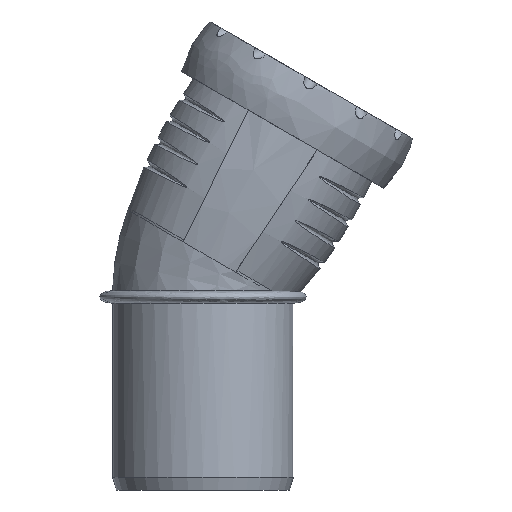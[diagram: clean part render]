
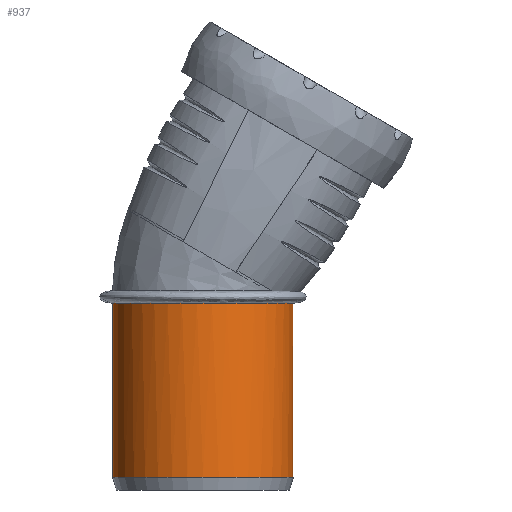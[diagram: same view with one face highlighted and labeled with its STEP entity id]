
A CAD part, front view. The second image highlights one B-rep face of the part: STEP entity #937.
In plain terms, the highlighted cylindrical face has radius 25.075 mm (diameter 50.15 mm), a full revolution.
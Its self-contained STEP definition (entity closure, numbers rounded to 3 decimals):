
#48=CYLINDRICAL_SURFACE('',#1024,25.075);
#96=FACE_BOUND('',#222,.T.);
#148=FACE_OUTER_BOUND('',#221,.T.);
#221=EDGE_LOOP('',(#800,#801,#802,#803));
#222=EDGE_LOOP('',(#804));
#262=CIRCLE('',#1013,25.075);
#267=CIRCLE('',#1025,25.075);
#268=CIRCLE('',#1026,25.075);
#269=CIRCLE('',#1027,25.075);
#270=CIRCLE('',#1028,25.075);
#422=VERTEX_POINT('',#3967);
#424=VERTEX_POINT('',#4002);
#431=VERTEX_POINT('',#4123);
#432=VERTEX_POINT('',#4125);
#433=VERTEX_POINT('',#4128);
#546=EDGE_CURVE('',#422,#424,#262,.T.);
#557=EDGE_CURVE('',#431,#422,#267,.T.);
#558=EDGE_CURVE('',#424,#432,#268,.T.);
#559=EDGE_CURVE('',#432,#431,#269,.T.);
#560=EDGE_CURVE('',#433,#433,#270,.T.);
#800=ORIENTED_EDGE('',*,*,#557,.T.);
#801=ORIENTED_EDGE('',*,*,#546,.T.);
#802=ORIENTED_EDGE('',*,*,#558,.T.);
#803=ORIENTED_EDGE('',*,*,#559,.T.);
#804=ORIENTED_EDGE('',*,*,#560,.F.);
#937=ADVANCED_FACE('',(#148,#96),#48,.T.);
#1013=AXIS2_PLACEMENT_3D('',#4035,#1169,#1170);
#1024=AXIS2_PLACEMENT_3D('',#4122,#1191,#1192);
#1025=AXIS2_PLACEMENT_3D('',#4124,#1193,#1194);
#1026=AXIS2_PLACEMENT_3D('',#4126,#1195,#1196);
#1027=AXIS2_PLACEMENT_3D('',#4127,#1197,#1198);
#1028=AXIS2_PLACEMENT_3D('',#4129,#1199,#1200);
#1169=DIRECTION('center_axis',(0.,0.,-1.));
#1170=DIRECTION('ref_axis',(1.,0.,0.));
#1191=DIRECTION('center_axis',(0.,0.,-1.));
#1192=DIRECTION('ref_axis',(0.,1.,0.));
#1193=DIRECTION('center_axis',(0.,0.,-1.));
#1194=DIRECTION('ref_axis',(1.,0.,0.));
#1195=DIRECTION('center_axis',(0.,0.,-1.));
#1196=DIRECTION('ref_axis',(1.,0.,0.));
#1197=DIRECTION('center_axis',(0.,0.,-1.));
#1198=DIRECTION('ref_axis',(1.,0.,0.));
#1199=DIRECTION('center_axis',(0.,0.,-1.));
#1200=DIRECTION('ref_axis',(1.,0.,0.));
#3967=CARTESIAN_POINT('',(24.85,3.355,51.8));
#4002=CARTESIAN_POINT('',(24.85,-3.355,51.8));
#4035=CARTESIAN_POINT('Origin',(0.,0.,51.8));
#4122=CARTESIAN_POINT('Origin',(0.,0.,27.65));
#4123=CARTESIAN_POINT('',(0.,25.075,51.8));
#4124=CARTESIAN_POINT('Origin',(0.,0.,51.8));
#4125=CARTESIAN_POINT('',(-25.075,0.,51.8));
#4126=CARTESIAN_POINT('Origin',(0.,0.,51.8));
#4127=CARTESIAN_POINT('Origin',(0.,0.,51.8));
#4128=CARTESIAN_POINT('',(0.,25.075,3.5));
#4129=CARTESIAN_POINT('Origin',(0.,0.,3.5));
